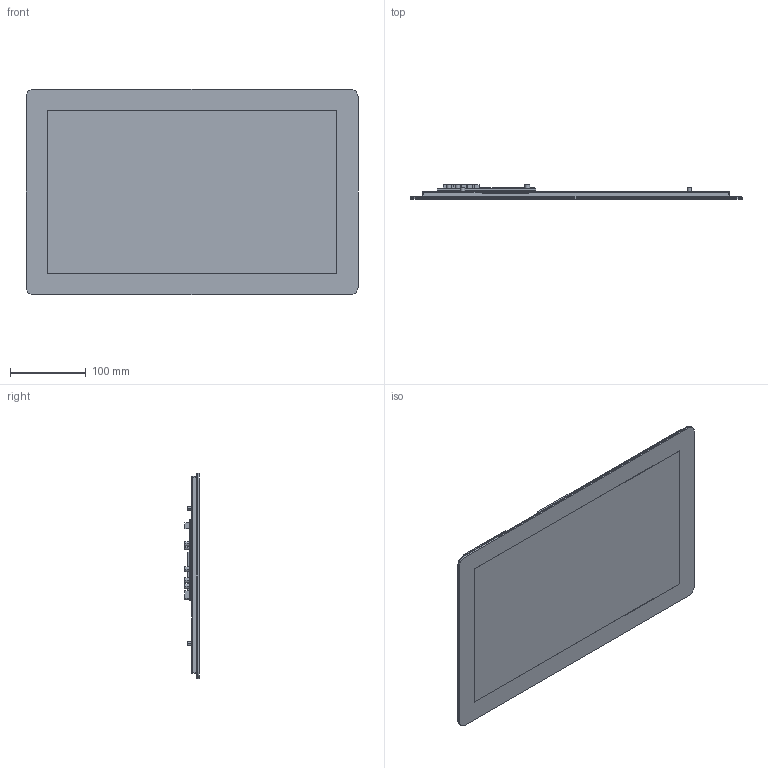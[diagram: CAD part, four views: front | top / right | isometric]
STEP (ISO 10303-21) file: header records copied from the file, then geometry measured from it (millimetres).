
FILE_DESCRIPTION((''),'2;1');
FILE_NAME('DMG19108C173-03WTR','2022-04-28T',('Administrator'),(''),'PRO/ENGINEER BY PARAMETRIC TECHNOLOGY CORPORATION, 2011310','PRO/ENGINEER BY PARAMETRIC TECHNOLOGY CORPORATION, 2011310','');
FILE_SCHEMA(('CONFIG_CONTROL_DESIGN','SHAPE_APPEARANCE_LAYERS_GROUPS'));
Products named in the file (1): DMG19108C173-03WTR
Bounding box: 439.49 x 18.8 x 272.41 mm (x, y, z)
Volume: 763461.3 mm3; surface area: 923628.2 mm2
Topology: 6 solids, 6 shells, 2132 faces, 6417 edges, 4148 vertices
Faces by surface type: plane 1512, cylinder 608, torus 12
Entity records: 74356 total; most frequent: CARTESIAN_POINT 13198, ORIENTED_EDGE 12834, DIRECTION 11651, EDGE_CURVE 6417, VECTOR 5149, LINE 5149, VERTEX_POINT 4148, AXIS2_PLACEMENT_3D 3251
